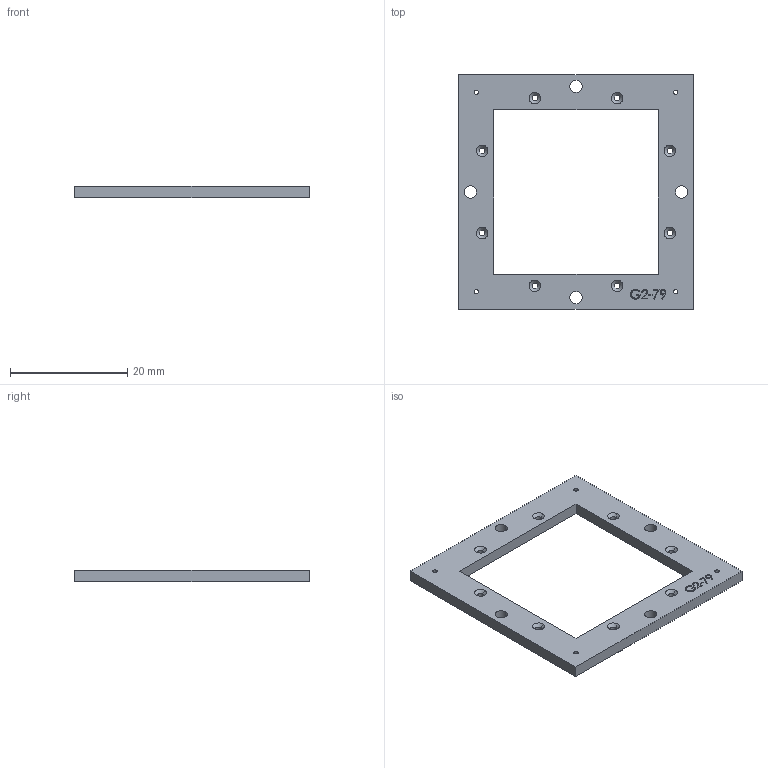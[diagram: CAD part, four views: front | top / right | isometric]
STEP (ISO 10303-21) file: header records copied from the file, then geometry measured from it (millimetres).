
FILE_DESCRIPTION (( 'STEP AP214' ), '1' );
FILE_NAME ('G_2.STEP', '2016-02-28T08:56:24', ( '' ), ( '' ), 'SwSTEP 2.0', 'SolidWorks 2012', '' );
FILE_SCHEMA (( 'AUTOMOTIVE_DESIGN' ));
Length unit declared in the file: millimetre
Products named in the file (1): G_2
Bounding box: 40 x 40 x 2 mm (x, y, z)
Volume: 1583.5 mm3; surface area: 2255.6 mm2
Topology: 1 solids, 1 shells, 111 faces, 293 edges, 190 vertices
Faces by surface type: plane 39, cylinder 32, bspline 24, cone 16
Entity records: 5001 total; most frequent: CARTESIAN_POINT 2243, ORIENTED_EDGE 586, DIRECTION 501, EDGE_CURVE 293, VERTEX_POINT 190, AXIS2_PLACEMENT_3D 168, LINE 165, VECTOR 165
